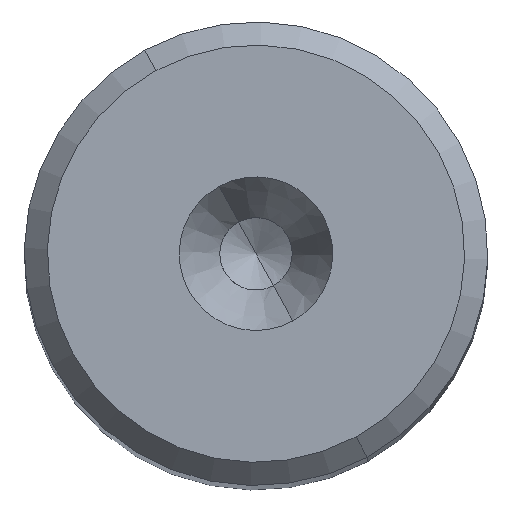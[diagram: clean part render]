
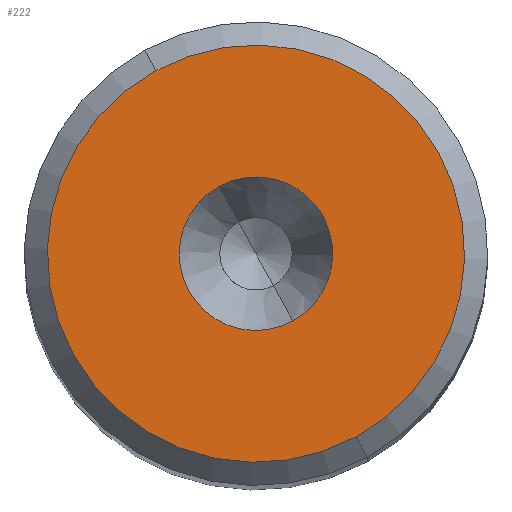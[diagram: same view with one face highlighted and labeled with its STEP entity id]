
A CAD part, top view. The second image highlights one B-rep face of the part: STEP entity #222.
In plain terms, the highlighted planar face has unit normal (0, 0, 1).
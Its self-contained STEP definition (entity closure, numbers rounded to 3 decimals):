
#152=AXIS2_PLACEMENT_3D('Circle Axis2P3D',#150,#151,$) ;
#184=AXIS2_PLACEMENT_3D('Circle Axis2P3D',#182,#183,$) ;
#198=AXIS2_PLACEMENT_3D('Plane Axis2P3D',#195,#196,#197) ;
#202=AXIS2_PLACEMENT_3D('Circle Axis2P3D',#200,#201,$) ;
#211=AXIS2_PLACEMENT_3D('Circle Axis2P3D',#209,#210,$) ;
#150=CARTESIAN_POINT('Axis2P3D Location',(0.,0.,0.)) ;
#154=CARTESIAN_POINT('Vertex',(-0.635,1.163,0.)) ;
#156=CARTESIAN_POINT('Vertex',(0.635,-1.163,0.)) ;
#182=CARTESIAN_POINT('Axis2P3D Location',(0.,0.,0.)) ;
#195=CARTESIAN_POINT('Axis2P3D Location',(0.,3.6,0.)) ;
#200=CARTESIAN_POINT('Axis2P3D Location',(0.,0.,0.)) ;
#204=CARTESIAN_POINT('Vertex',(-1.726,3.159,0.)) ;
#206=CARTESIAN_POINT('Vertex',(1.726,-3.159,0.)) ;
#209=CARTESIAN_POINT('Axis2P3D Location',(0.,0.,0.)) ;
#151=DIRECTION('Axis2P3D Direction',(0.,0.,1.)) ;
#183=DIRECTION('Axis2P3D Direction',(0.,0.,1.)) ;
#196=DIRECTION('Axis2P3D Direction',(0.,0.,1.)) ;
#197=DIRECTION('Axis2P3D XDirection',(-1.,0.,0.)) ;
#201=DIRECTION('Axis2P3D Direction',(0.,0.,1.)) ;
#210=DIRECTION('Axis2P3D Direction',(0.,0.,1.)) ;
#215=ORIENTED_EDGE('',*,*,#208,.T.) ;
#216=ORIENTED_EDGE('',*,*,#213,.T.) ;
#219=ORIENTED_EDGE('',*,*,#158,.F.) ;
#220=ORIENTED_EDGE('',*,*,#186,.F.) ;
#221=FACE_BOUND('',#218,.T.) ;
#222=ADVANCED_FACE('NOCUT',(#217,#221),#199,.T.) ;
#153=CIRCLE('generated circle',#152,1.325) ;
#185=CIRCLE('generated circle',#184,1.325) ;
#203=CIRCLE('generated circle',#202,3.6) ;
#212=CIRCLE('generated circle',#211,3.6) ;
#158=EDGE_CURVE('',#155,#157,#153,.T.) ;
#186=EDGE_CURVE('',#157,#155,#185,.T.) ;
#208=EDGE_CURVE('',#205,#207,#203,.T.) ;
#213=EDGE_CURVE('',#207,#205,#212,.T.) ;
#214=EDGE_LOOP('',(#215,#216)) ;
#218=EDGE_LOOP('',(#219,#220)) ;
#217=FACE_OUTER_BOUND('',#214,.T.) ;
#199=PLANE('',#198) ;
#155=VERTEX_POINT('',#154) ;
#157=VERTEX_POINT('',#156) ;
#205=VERTEX_POINT('',#204) ;
#207=VERTEX_POINT('',#206) ;
